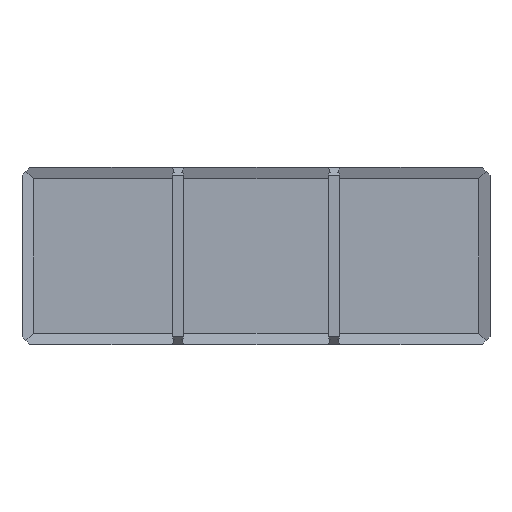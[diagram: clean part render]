
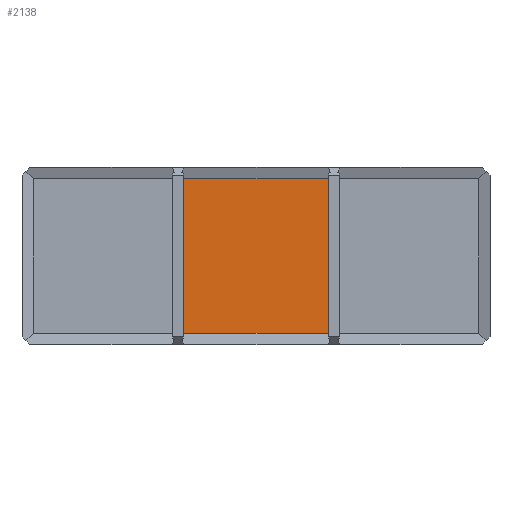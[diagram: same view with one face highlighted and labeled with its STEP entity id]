
A CAD part, left-side view. The second image highlights one B-rep face of the part: STEP entity #2138.
In plain terms, the highlighted planar face has unit normal (-1, 0, 0).
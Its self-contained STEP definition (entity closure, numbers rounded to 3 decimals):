
#82=FACE_OUTER_BOUND('',#198,.T.);
#198=EDGE_LOOP('',(#1735,#1736,#1737,#1738));
#479=LINE('',#3309,#783);
#491=LINE('',#3333,#795);
#503=LINE('',#3356,#807);
#504=LINE('',#3357,#808);
#783=VECTOR('',#2651,10.);
#795=VECTOR('',#2673,10.);
#807=VECTOR('',#2701,10.);
#808=VECTOR('',#2702,10.);
#982=VERTEX_POINT('',#3160);
#1018=VERTEX_POINT('',#3272);
#1027=VERTEX_POINT('',#3296);
#1029=VERTEX_POINT('',#3307);
#1279=EDGE_CURVE('',#1018,#1029,#479,.T.);
#1291=EDGE_CURVE('',#982,#1027,#491,.T.);
#1303=EDGE_CURVE('',#982,#1029,#503,.T.);
#1304=EDGE_CURVE('',#1027,#1018,#504,.T.);
#1735=ORIENTED_EDGE('',*,*,#1279,.T.);
#1736=ORIENTED_EDGE('',*,*,#1303,.F.);
#1737=ORIENTED_EDGE('',*,*,#1291,.T.);
#1738=ORIENTED_EDGE('',*,*,#1304,.T.);
#2024=PLANE('',#2267);
#2138=ADVANCED_FACE('',(#82),#2024,.T.);
#2267=AXIS2_PLACEMENT_3D('',#3355,#2699,#2700);
#2651=DIRECTION('',(0.,1.,0.));
#2673=DIRECTION('',(0.,-1.,0.));
#2699=DIRECTION('center_axis',(-1.,0.,0.));
#2700=DIRECTION('ref_axis',(0.,-1.,0.));
#2701=DIRECTION('',(0.,0.,1.));
#2702=DIRECTION('',(0.,0.,1.));
#3160=CARTESIAN_POINT('',(-31.467,56.833,57.5));
#3272=CARTESIAN_POINT('',(-31.467,16.667,98.));
#3296=CARTESIAN_POINT('',(-31.467,16.667,57.5));
#3307=CARTESIAN_POINT('',(-31.467,56.833,98.));
#3309=CARTESIAN_POINT('',(-31.467,77.517,98.));
#3333=CARTESIAN_POINT('',(-31.467,16.067,57.5));
#3355=CARTESIAN_POINT('Origin',(-31.467,56.833,54.5));
#3356=CARTESIAN_POINT('',(-31.467,56.833,54.5));
#3357=CARTESIAN_POINT('',(-31.467,16.667,54.5));
